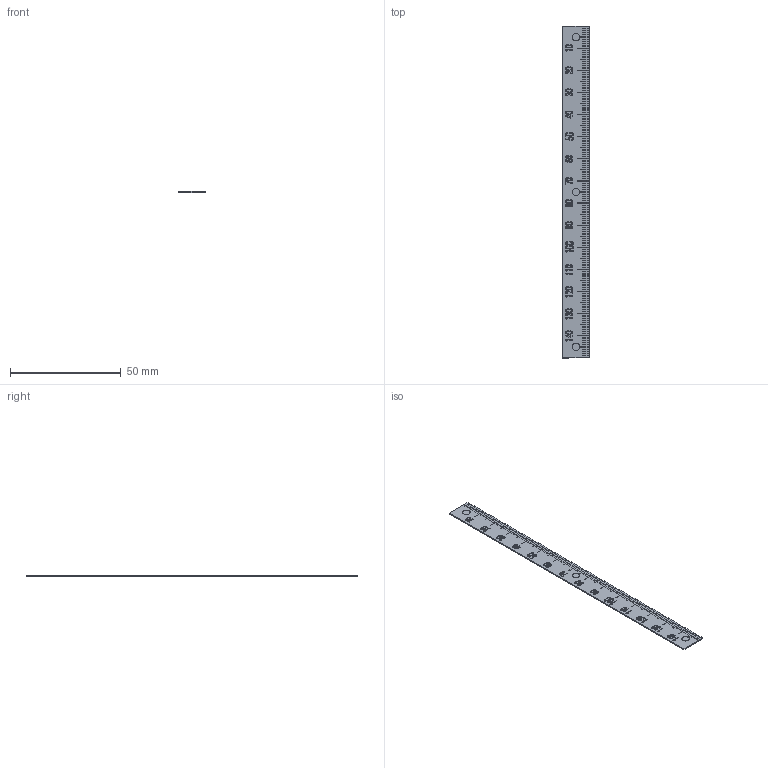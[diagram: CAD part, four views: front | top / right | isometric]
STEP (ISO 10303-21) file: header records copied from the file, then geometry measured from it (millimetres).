
FILE_DESCRIPTION (( 'STEP AP203' ), '1' );
FILE_NAME ('es1n-d150l.STEP', '2023-06-15T07:06:13', ( '' ), ( '' ), 'SwSTEP 2.0', 'SolidWorks 2021', '' );
FILE_SCHEMA (( 'CONFIG_CONTROL_DESIGN' ));
Products named in the file (1): es1n-d150l
Bounding box: 12 x 150 x 0.5 mm (x, y, z)
Volume: 898.8 mm3; surface area: 3776.7 mm2
Topology: 1 solids, 1 shells, 1191 faces, 3387 edges, 2258 vertices
Faces by surface type: plane 768, bspline 411, cylinder 12
Entity records: 54452 total; most frequent: CARTESIAN_POINT 26184, ORIENTED_EDGE 6774, DIRECTION 4151, EDGE_CURVE 3387, VECTOR 2541, LINE 2541, VERTEX_POINT 2258, EDGE_LOOP 1251
